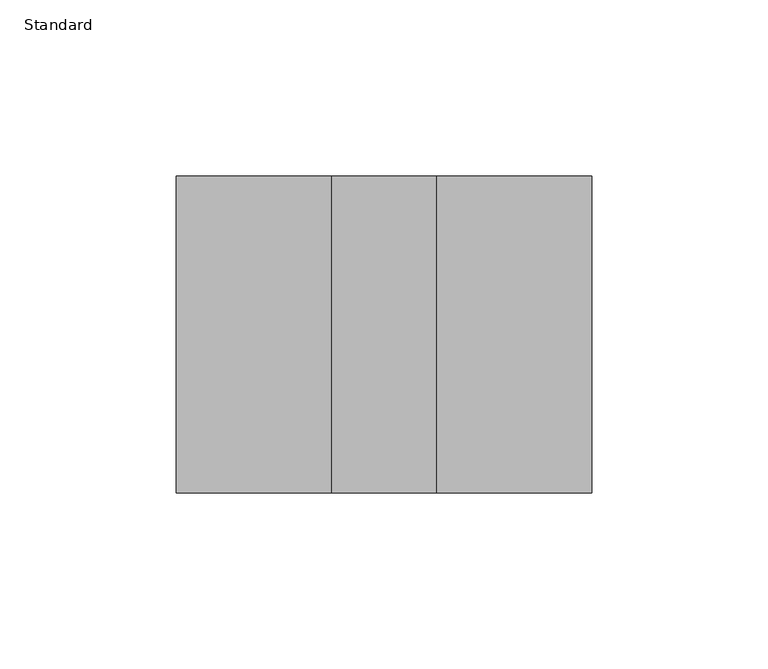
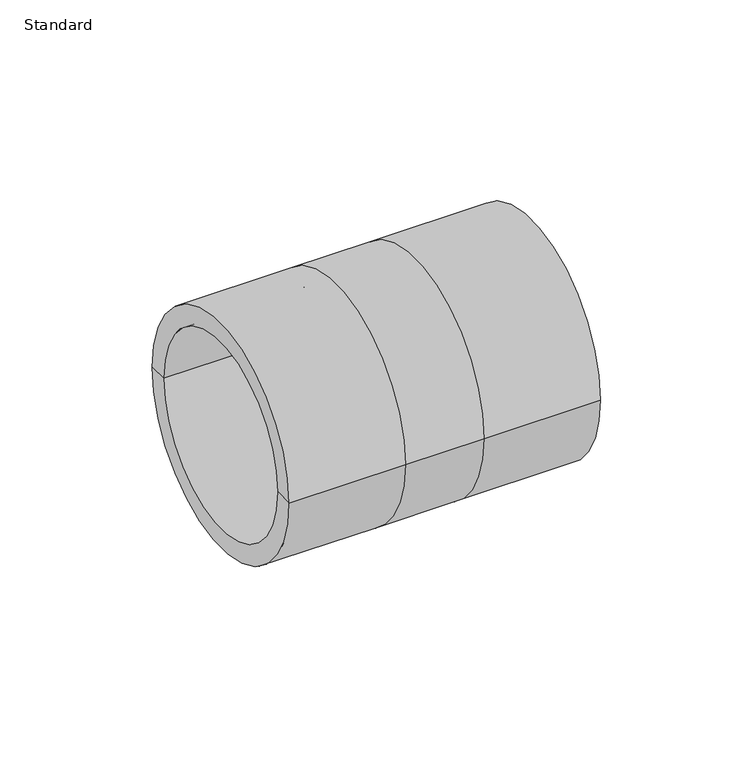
"""IFC4 building model written with IfcOpenShell, lengths in millimetres: pipe fitting geometry, Durapipe_PipeFitting_PVC_Reducers : Standard."""

from ifc_helpers import new_model, si_unit, frame, origin, place, context, project, spatial, polyline, circle_curve, source, transform, mapped, element, save
from ifc_brep_helpers import plane_surface, cylinder_surface, revolved_surface, advanced_brep


def standard_373f575a(model_context):
    return source(origin(), model_context, "Body", "AdvancedBrep", [
        advanced_brep(
        [(-59.0, -45.0, 0.0), (-59.0, 45.0, 0.0), (-15.0, 45.0, 0.0), (-15.0, -45.0, 0.0), (-59.0, -37.5, 0.0), (-59.0, 37.5, 0.0), (59.0, -45.0, 0.0), (59.0, 45.0, 0.0), (59.0, 37.5, 0.0), (59.0, -37.5, 0.0), (15.0, -45.0, 0.0), (15.0, 45.0, 0.0), (-15.0, -37.5, 0.0), (-15.0, 37.5, 0.0), (-15.0, 0.0, 0.0), (15.0, -37.5, 0.0), (15.0, 37.5, 0.0), (15.0, 0.0, 0.0)],
        [
            (0, 1, circle_curve(frame((-59.0, 0.0, 0.0), z_axis=(1.0, 0.0, 0.0), x_axis=(0.0, 1.0, 0.0)), 45.0)),
            (1, 2),
            (2, 3, circle_curve(frame((-15.0, 0.0, 0.0), z_axis=(-1.0, 0.0, 0.0), x_axis=(0.0, 1.0, 0.0)), 45.0)),
            (3, 0),
            (1, 0, circle_curve(frame((-59.0, 0.0, 0.0), z_axis=(1.0, 0.0, 0.0), x_axis=(0.0, 1.0, 0.0)), 45.0)),
            (3, 2, circle_curve(frame((-15.0, 0.0, 0.0), z_axis=(-1.0, 0.0, 0.0), x_axis=(0.0, 1.0, 0.0)), 45.0)),
            (4, 5, circle_curve(frame((-59.0, 0.0, 0.0), z_axis=(1.0, 0.0, 0.0), x_axis=(0.0, 1.0, 0.0)), 37.5)),
            (5, 1),
            (0, 4),
            (5, 4, circle_curve(frame((-59.0, 0.0, 0.0), z_axis=(1.0, 0.0, 0.0), x_axis=(0.0, 1.0, 0.0)), 37.5)),
            (6, 7, circle_curve(frame((59.0, 0.0, 0.0), z_axis=(1.0, 0.0, 0.0), x_axis=(0.0, 1.0, 0.0)), 45.0)),
            (7, 8),
            (8, 9, circle_curve(frame((59.0, 0.0, 0.0), z_axis=(-1.0, 0.0, 0.0), x_axis=(0.0, 1.0, 0.0)), 37.5)),
            (9, 6),
            (7, 6, circle_curve(frame((59.0, 0.0, 0.0), z_axis=(1.0, 0.0, 0.0), x_axis=(0.0, 1.0, 0.0)), 45.0)),
            (9, 8, circle_curve(frame((59.0, 0.0, 0.0), z_axis=(-1.0, 0.0, 0.0), x_axis=(0.0, 1.0, 0.0)), 37.5)),
            (10, 11, circle_curve(frame((15.0, 0.0, 0.0), z_axis=(1.0, 0.0, 0.0), x_axis=(0.0, 1.0, 0.0)), 45.0)),
            (11, 7),
            (6, 10),
            (11, 10, circle_curve(frame((15.0, 0.0, 0.0), z_axis=(1.0, 0.0, 0.0), x_axis=(0.0, 1.0, 0.0)), 45.0)),
            (2, 11),
            (10, 3),
            (12, 13, circle_curve(frame((-15.0, 0.0, 0.0), z_axis=(1.0, 0.0, 0.0), x_axis=(0.0, 1.0, 0.0)), 37.5)),
            (13, 5),
            (4, 12),
            (13, 12, circle_curve(frame((-15.0, 0.0, 0.0), z_axis=(1.0, 0.0, 0.0), x_axis=(0.0, 1.0, 0.0)), 37.5)),
            (14, 13),
            (12, 14),
            (15, 16, circle_curve(frame((15.0, 0.0, 0.0), z_axis=(1.0, 0.0, 0.0), x_axis=(0.0, 1.0, 0.0)), 37.5)),
            (16, 17),
            (17, 15),
            (16, 15, circle_curve(frame((15.0, 0.0, 0.0), z_axis=(1.0, 0.0, 0.0), x_axis=(0.0, 1.0, 0.0)), 37.5)),
            (8, 16),
            (15, 9),
        ],
        [
            cylinder_surface(frame((-59.0, 0.0, 0.0), z_axis=(-1.0, 0.0, 0.0), x_axis=(0.0, 1.0, 0.0)), 45.0),
            plane_surface(frame((-59.0, 0.0, 0.0), z_axis=(-1.0, 0.0, 0.0), x_axis=(0.0, 1.0, 0.0))),
            plane_surface(frame((59.0, 0.0, 0.0), z_axis=(1.0, 0.0, 0.0), x_axis=(0.0, 1.0, 0.0))),
            revolved_surface(polyline([(-59.0, 37.5, 0.0), (-15.0, 37.5, 0.0)]), (-59.0, 0.0, 0.0), (-1.0, 0.0, 0.0)),
            plane_surface(frame((-15.0, 0.0, 0.0), z_axis=(-1.0, 0.0, 0.0), x_axis=(0.0, 1.0, 0.0))),
            plane_surface(frame((15.0, 0.0, 0.0), z_axis=(1.0, 0.0, 0.0), x_axis=(0.0, 1.0, 0.0))),
            revolved_surface(polyline([(15.0, 37.5, 0.0), (59.0, 37.5, 0.0)]), (-59.0, 0.0, 0.0), (-1.0, 0.0, 0.0)),
        ],
        [
            (0, [[1, 2, 3, 4]]),
            (0, [[5, -4, 6, -2]]),
            (1, [[7, 8, -1, 9]]),
            (1, [[10, -9, -5, -8]]),
            (2, [[11, 12, 13, 14]]),
            (2, [[15, -14, 16, -12]]),
            (0, [[17, 18, -11, 19]]),
            (0, [[20, -19, -15, -18]]),
            (0, [[-3, 21, -17, 22]]),
            (0, [[-6, -22, -20, -21]]),
            (3, [[23, 24, -7, 25]]),
            (3, [[26, -25, -10, -24]]),
            (4, [[27, -23, 28]]),
            (4, [[-28, -26, -27]]),
            (5, [[29, 30, 31]]),
            (5, [[32, -31, -30]]),
            (6, [[-13, 33, -29, 34]]),
            (6, [[-16, -34, -32, -33]]),
        ],
    ),
    ])


if __name__ == "__main__":
    model = new_model("IFC4")
    model_context = context("Model", 3, world=origin())
    ifc_project = project(units=[si_unit("LENGTHUNIT", "METRE", prefix="MILLI")], contexts=[model_context])
    site = spatial("IfcSite", under=ifc_project)
    building = spatial("IfcBuilding", under=site)
    placement = place(None, origin())
    standard_shape = standard_373f575a(model_context)
    element("IfcPipeFitting", 1, ObjectType="Durapipe_PipeFitting_PVC_Reducers : Standard", at=placement, inside=building, context=model_context, shape_type="MappedRepresentation", body=[
        mapped(standard_shape, transform((0.0, 0.0, 0.0), x_axis=(1.0, 0.0, 0.0), y_axis=(0.0, 1.0, 0.0), z_axis=(0.0, 0.0, 1.0))),
    ])
    save(model, "model.ifc")
